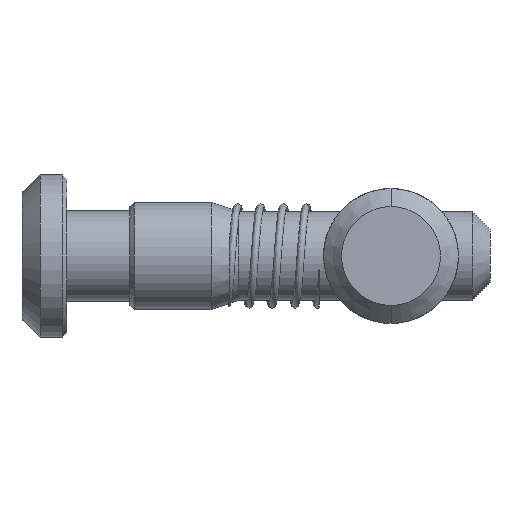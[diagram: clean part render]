
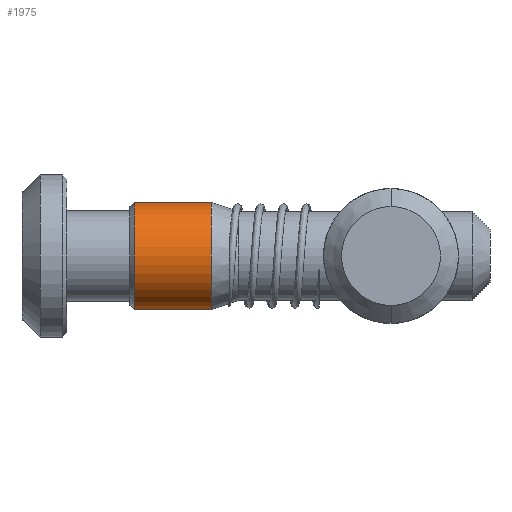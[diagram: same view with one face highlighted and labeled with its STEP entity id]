
A CAD part, left-side view. The second image highlights one B-rep face of the part: STEP entity #1975.
In plain terms, the highlighted cylindrical face has radius 5.95 mm (diameter 11.9 mm), a partial arc.
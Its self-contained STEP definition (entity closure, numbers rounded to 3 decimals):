
#93 = CARTESIAN_POINT ( 'NONE',  ( -1.519, 10.879, -3.368 ) ) ;
#195 = ORIENTED_EDGE ( 'NONE', *, *, #2837, .T. ) ;
#239 = ORIENTED_EDGE ( 'NONE', *, *, #3242, .F. ) ;
#365 = VERTEX_POINT ( 'NONE', #1431 ) ;
#451 = LINE ( 'NONE', #1482, #635 ) ;
#463 = CYLINDRICAL_SURFACE ( 'NONE', #3622, 5.95 ) ;
#635 = VECTOR ( 'NONE', #1464, 1000. ) ;
#936 = VERTEX_POINT ( 'NONE', #2695 ) ;
#961 = ORIENTED_EDGE ( 'NONE', *, *, #2654, .F. ) ;
#1019 = EDGE_CURVE ( 'NONE', #1148, #365, #3316, .T. ) ;
#1112 = DIRECTION ( 'NONE',  ( 0., 0., 1. ) ) ;
#1148 = VERTEX_POINT ( 'NONE', #3575 ) ;
#1201 = DIRECTION ( 'NONE',  ( 0., 1., 0. ) ) ;
#1207 = DIRECTION ( 'NONE',  ( 0., 1., 0. ) ) ;
#1217 = CARTESIAN_POINT ( 'NONE',  ( -1.519, 23.379, 8.532 ) ) ;
#1234 = CARTESIAN_POINT ( 'NONE',  ( -1.519, 23.379, 2.582 ) ) ;
#1391 = FACE_OUTER_BOUND ( 'NONE', #3587, .T. ) ;
#1431 = CARTESIAN_POINT ( 'NONE',  ( -1.519, 2.379, 8.532 ) ) ;
#1464 = DIRECTION ( 'NONE',  ( 0., 1., 0. ) ) ;
#1482 = CARTESIAN_POINT ( 'NONE',  ( -1.519, 23.379, -3.368 ) ) ;
#1975 = ADVANCED_FACE ( 'NONE', ( #1391 ), #463, .T. ) ;
#2220 = AXIS2_PLACEMENT_3D ( 'NONE', #3156, #3164, #3170 ) ;
#2445 = ORIENTED_EDGE ( 'NONE', *, *, #1019, .T. ) ;
#2561 = CIRCLE ( 'NONE', #2898, 5.95 ) ;
#2654 = EDGE_CURVE ( 'NONE', #1148, #3657, #451, .T. ) ;
#2695 = CARTESIAN_POINT ( 'NONE',  ( -1.519, 10.879, 8.532 ) ) ;
#2837 = EDGE_CURVE ( 'NONE', #365, #936, #3461, .T. ) ;
#2898 = AXIS2_PLACEMENT_3D ( 'NONE', #3576, #3562, #3550 ) ;
#3156 = CARTESIAN_POINT ( 'NONE',  ( -1.519, 2.379, 2.582 ) ) ;
#3164 = DIRECTION ( 'NONE',  ( 0., 1., 0. ) ) ;
#3170 = DIRECTION ( 'NONE',  ( 0., 0., 1. ) ) ;
#3242 = EDGE_CURVE ( 'NONE', #3657, #936, #2561, .T. ) ;
#3316 = CIRCLE ( 'NONE', #2220, 5.95 ) ;
#3329 = VECTOR ( 'NONE', #1201, 1000. ) ;
#3461 = LINE ( 'NONE', #1217, #3329 ) ;
#3550 = DIRECTION ( 'NONE',  ( 0., 0., 1. ) ) ;
#3562 = DIRECTION ( 'NONE',  ( 0., 1., 0. ) ) ;
#3575 = CARTESIAN_POINT ( 'NONE',  ( -1.519, 2.379, -3.368 ) ) ;
#3576 = CARTESIAN_POINT ( 'NONE',  ( -1.519, 10.879, 2.582 ) ) ;
#3587 = EDGE_LOOP ( 'NONE', ( #961, #2445, #195, #239 ) ) ;
#3622 = AXIS2_PLACEMENT_3D ( 'NONE', #1234, #1207, #1112 ) ;
#3657 = VERTEX_POINT ( 'NONE', #93 ) ;
